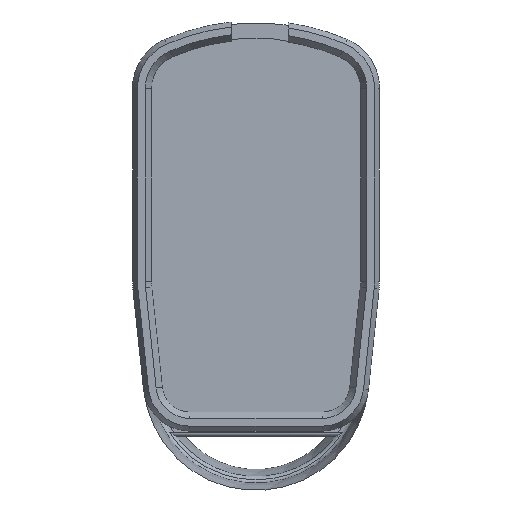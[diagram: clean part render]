
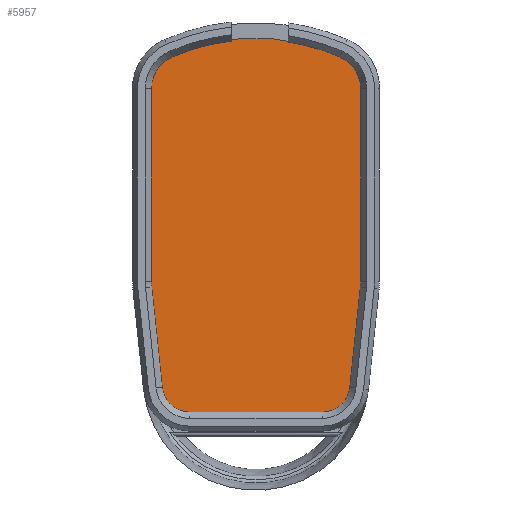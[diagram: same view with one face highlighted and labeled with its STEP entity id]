
A CAD part, front view. The second image highlights one B-rep face of the part: STEP entity #5957.
In plain terms, the highlighted planar face has unit normal (0, -1, 0).
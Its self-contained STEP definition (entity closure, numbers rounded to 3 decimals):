
#534=CIRCLE('',#6332,4.364);
#535=CIRCLE('',#6335,8.364);
#536=CIRCLE('',#6338,5.364);
#537=CIRCLE('',#6340,31.739);
#538=CIRCLE('',#6342,5.364);
#539=CIRCLE('',#6345,8.364);
#540=CIRCLE('',#6348,4.364);
#798=FACE_OUTER_BOUND('',#1151,.T.);
#1151=EDGE_LOOP('',(#4206,#4207,#4208,#4209,#4210,#4211,#4212,#4213,#4214,
#4215,#4216,#4217));
#1562=LINE('',#8223,#2019);
#1565=LINE('',#8231,#2022);
#1568=LINE('',#8239,#2025);
#1573=LINE('',#8255,#2030);
#1576=LINE('',#8263,#2033);
#2019=VECTOR('',#6924,10.);
#2022=VECTOR('',#6933,10.);
#2025=VECTOR('',#6942,10.);
#2030=VECTOR('',#6961,10.);
#2033=VECTOR('',#6970,10.);
#2460=VERTEX_POINT('',#8220);
#2461=VERTEX_POINT('',#8222);
#2462=VERTEX_POINT('',#8226);
#2463=VERTEX_POINT('',#8230);
#2464=VERTEX_POINT('',#8234);
#2465=VERTEX_POINT('',#8238);
#2466=VERTEX_POINT('',#8242);
#2467=VERTEX_POINT('',#8246);
#2468=VERTEX_POINT('',#8250);
#2469=VERTEX_POINT('',#8254);
#2470=VERTEX_POINT('',#8258);
#2471=VERTEX_POINT('',#8262);
#3106=EDGE_CURVE('',#2461,#2460,#1562,.T.);
#3108=EDGE_CURVE('',#2462,#2461,#534,.T.);
#3110=EDGE_CURVE('',#2463,#2462,#1565,.T.);
#3112=EDGE_CURVE('',#2464,#2463,#535,.T.);
#3114=EDGE_CURVE('',#2465,#2464,#1568,.T.);
#3116=EDGE_CURVE('',#2466,#2465,#536,.T.);
#3118=EDGE_CURVE('',#2467,#2466,#537,.T.);
#3120=EDGE_CURVE('',#2468,#2467,#538,.T.);
#3122=EDGE_CURVE('',#2469,#2468,#1573,.T.);
#3124=EDGE_CURVE('',#2470,#2469,#539,.T.);
#3126=EDGE_CURVE('',#2471,#2470,#1576,.T.);
#3128=EDGE_CURVE('',#2460,#2471,#540,.T.);
#4206=ORIENTED_EDGE('',*,*,#3128,.T.);
#4207=ORIENTED_EDGE('',*,*,#3126,.T.);
#4208=ORIENTED_EDGE('',*,*,#3124,.T.);
#4209=ORIENTED_EDGE('',*,*,#3122,.T.);
#4210=ORIENTED_EDGE('',*,*,#3120,.T.);
#4211=ORIENTED_EDGE('',*,*,#3118,.T.);
#4212=ORIENTED_EDGE('',*,*,#3116,.T.);
#4213=ORIENTED_EDGE('',*,*,#3114,.T.);
#4214=ORIENTED_EDGE('',*,*,#3112,.T.);
#4215=ORIENTED_EDGE('',*,*,#3110,.T.);
#4216=ORIENTED_EDGE('',*,*,#3108,.T.);
#4217=ORIENTED_EDGE('',*,*,#3106,.T.);
#5816=PLANE('',#6350);
#5957=ADVANCED_FACE('',(#798),#5816,.F.);
#6332=AXIS2_PLACEMENT_3D('',#8227,#6928,#6929);
#6335=AXIS2_PLACEMENT_3D('',#8235,#6937,#6938);
#6338=AXIS2_PLACEMENT_3D('',#8243,#6946,#6947);
#6340=AXIS2_PLACEMENT_3D('',#8247,#6951,#6952);
#6342=AXIS2_PLACEMENT_3D('',#8251,#6956,#6957);
#6345=AXIS2_PLACEMENT_3D('',#8259,#6965,#6966);
#6348=AXIS2_PLACEMENT_3D('',#8266,#6974,#6975);
#6350=AXIS2_PLACEMENT_3D('',#8268,#6978,#6979);
#6924=DIRECTION('',(1.,0.,0.));
#6928=DIRECTION('center_axis',(0.,-1.,0.));
#6929=DIRECTION('ref_axis',(0.,0.,-1.));
#6933=DIRECTION('',(0.105,0.,-0.995));
#6937=DIRECTION('center_axis',(0.,-1.,0.));
#6938=DIRECTION('ref_axis',(-0.995,0.,-0.105));
#6942=DIRECTION('',(0.,0.,-1.));
#6946=DIRECTION('center_axis',(0.,-1.,0.));
#6947=DIRECTION('ref_axis',(-1.,0.,0.));
#6951=DIRECTION('center_axis',(0.,-1.,0.));
#6952=DIRECTION('ref_axis',(-0.398,0.,0.917));
#6956=DIRECTION('center_axis',(0.,-1.,0.));
#6957=DIRECTION('ref_axis',(0.398,0.,0.917));
#6961=DIRECTION('',(0.,0.,1.));
#6965=DIRECTION('center_axis',(0.,-1.,0.));
#6966=DIRECTION('ref_axis',(1.,0.,0.));
#6970=DIRECTION('',(0.105,0.,0.995));
#6974=DIRECTION('center_axis',(0.,-1.,0.));
#6975=DIRECTION('ref_axis',(0.995,0.,-0.105));
#6978=DIRECTION('center_axis',(0.,1.,0.));
#6979=DIRECTION('ref_axis',(1.,0.,0.));
#8220=CARTESIAN_POINT('',(9.899,-1.,-13.864));
#8222=CARTESIAN_POINT('',(-9.899,-1.,-13.864));
#8223=CARTESIAN_POINT('',(-4.949,-1.,-13.864));
#8226=CARTESIAN_POINT('',(-14.239,-1.,-9.957));
#8227=CARTESIAN_POINT('Origin',(-9.899,-1.,-9.5));
#8230=CARTESIAN_POINT('',(-15.818,-1.,5.044));
#8231=CARTESIAN_POINT('',(-16.211,-1.,8.773));
#8234=CARTESIAN_POINT('',(-15.864,-1.,5.92));
#8235=CARTESIAN_POINT('Origin',(-7.5,-1.,5.92));
#8238=CARTESIAN_POINT('',(-15.864,-1.,34.82));
#8239=CARTESIAN_POINT('',(-15.864,-1.,24.535));
#8242=CARTESIAN_POINT('',(-12.635,-1.,39.74));
#8243=CARTESIAN_POINT('Origin',(-10.5,-1.,34.82));
#8246=CARTESIAN_POINT('',(12.635,-1.,39.74));
#8247=CARTESIAN_POINT('Origin',(0.,-1.,10.625));
#8250=CARTESIAN_POINT('',(15.864,-1.,34.82));
#8251=CARTESIAN_POINT('Origin',(10.5,-1.,34.82));
#8254=CARTESIAN_POINT('',(15.864,-1.,5.92));
#8255=CARTESIAN_POINT('',(15.864,-1.,10.085));
#8258=CARTESIAN_POINT('',(15.818,-1.,5.044));
#8259=CARTESIAN_POINT('Origin',(7.5,-1.,5.92));
#8262=CARTESIAN_POINT('',(14.239,-1.,-9.957));
#8263=CARTESIAN_POINT('',(15.421,-1.,1.273));
#8266=CARTESIAN_POINT('Origin',(9.899,-1.,-9.5));
#8268=CARTESIAN_POINT('Origin',(0.,-1.,14.25));
